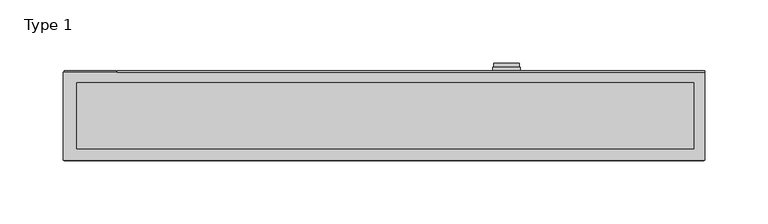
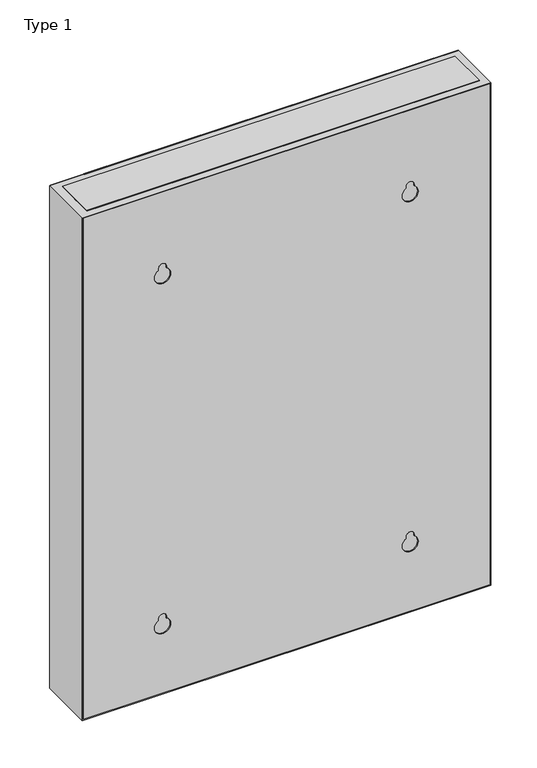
"""IFC4 building model written with IfcOpenShell, lengths in millimetres: proxy geometry, PDB-200 - 208V_OR_120V_Distribution_Panel_Wallmount_BIM_Model : Type 1."""

from ifc_helpers import new_model, si_unit, point, frame, frame_2d, origin, place, context, project, spatial, polyline, circle_curve, trimmed, segment, composite_curve, outline, extrude, source, transform, mapped, element, save


def type_1_7145ab67(model_context):
    return source(origin(), model_context, "Body", "SweptSolid", [
        extrude(outline(polyline([(1661.8105, -253.0019074), (1003.7201708, -253.0019074), (1003.7201708, 253.0019074), (1661.8105, 253.0019074), (1661.8105, -253.0019074)]), holes=[composite_curve([segment(trimmed(circle_curve(frame_2d((1562.5846885, 154.050553)), 5.0), [point((1562.5846885, 149.050553))], [point((1562.5846885, 159.050553))], True, "CARTESIAN"), True, "CONTINUOUS"), segment(polyline([(1562.5846885, 159.050553), (1560.4927236, 159.050553)]), True, "CONTINUOUS"), segment(trimmed(circle_curve(frame_2d((1551.8324696, 154.050553)), 10.0), [point((1560.4927236, 159.050553))], [point((1560.4927236, 149.050553))], True, "CARTESIAN"), True, "CONTINUOUS"), segment(polyline([(1560.4927236, 149.050553), (1562.5846885, 149.050553)]), True, "CONTINUOUS")], self_intersect=False), composite_curve([segment(trimmed(circle_curve(frame_2d((1562.5846885, -153.949447)), 5.0), [point((1562.5846885, -158.949447))], [point((1562.5846885, -148.949447))], True, "CARTESIAN"), True, "CONTINUOUS"), segment(polyline([(1562.5846885, -148.949447), (1560.4927236, -148.949447)]), True, "CONTINUOUS"), segment(trimmed(circle_curve(frame_2d((1551.8324696, -153.949447)), 10.0), [point((1560.4927236, -148.949447))], [point((1560.4927236, -158.949447))], True, "CARTESIAN"), True, "CONTINUOUS"), segment(polyline([(1560.4927236, -158.949447), (1562.5846885, -158.949447)]), True, "CONTINUOUS")], self_intersect=False), composite_curve([segment(trimmed(circle_curve(frame_2d((1102.5846885, 154.050553)), 5.0), [point((1102.5846885, 149.050553))], [point((1102.5846885, 159.050553))], True, "CARTESIAN"), True, "CONTINUOUS"), segment(polyline([(1102.5846885, 159.050553), (1100.4927236, 159.050553)]), True, "CONTINUOUS"), segment(trimmed(circle_curve(frame_2d((1091.8324696, 154.050553)), 10.0), [point((1100.4927236, 159.050553))], [point((1100.4927236, 149.050553))], True, "CARTESIAN"), True, "CONTINUOUS"), segment(polyline([(1100.4927236, 149.050553), (1102.5846885, 149.050553)]), True, "CONTINUOUS")], self_intersect=False), composite_curve([segment(trimmed(circle_curve(frame_2d((1102.5846885, -153.949447)), 5.0), [point((1102.5846885, -158.949447))], [point((1102.5846885, -148.949447))], True, "CARTESIAN"), True, "CONTINUOUS"), segment(polyline([(1102.5846885, -148.949447), (1100.4927236, -148.949447)]), True, "CONTINUOUS"), segment(trimmed(circle_curve(frame_2d((1091.8324696, -153.949447)), 10.0), [point((1100.4927236, -148.949447))], [point((1100.4927236, -158.949447))], True, "CARTESIAN"), True, "CONTINUOUS"), segment(polyline([(1100.4927236, -158.949447), (1102.5846885, -158.949447)]), True, "CONTINUOUS")], self_intersect=False)]), frame((0.0, 75.0, 0.0), z_axis=(0.0, 1.0, 0.0), x_axis=(0.0, 0.0, 1.0)), (0.0, 0.0, 1.0), 0.9625754),
        extrude(outline(polyline([(245.1030134, 136.3815412), (245.1030134, 84.1852012), (-243.0019074, 84.1852012), (-243.0019074, 136.3815412), (245.1030134, 136.3815412)])), frame((0.0, 0.0, 1662.5846885), z_axis=(0.0, 0.0, 1.0), x_axis=(1.0, 0.0, 0.0)), (0.0, 0.0, 1.0), 1.0190412),
        extrude(outline(polyline([(245.1030134, 136.3815412), (245.1030134, 84.1852012), (-243.0019074, 84.1852012), (-243.0019074, 136.3815412), (245.1030134, 136.3815412)])), frame((0.0, 0.0, 1001.2301619), z_axis=(0.0, 0.0, 1.0), x_axis=(1.0, 0.0, 0.0)), (0.0, 0.0, 1.0), 1.3545267),
        extrude(outline(polyline([(1662.5846885, -211.0108438), (1002.5846885, -211.0108438), (1002.5846885, 254.050553), (1662.5846885, 254.050553), (1662.5846885, -211.0108438)]), holes=[polyline([(1580.351105, -164.6014451), (1580.351105, 175.3985549), (1090.6943454, 175.3985549), (1090.6943454, -164.6014451), (1580.351105, -164.6014451)])]), frame((0.0, 144.9997753, 0.0), z_axis=(0.0, 1.0, 0.0), x_axis=(0.0, 0.0, 1.0)), (0.0, 0.0, 1.0), 0.9317574),
        extrude(outline(polyline([(174.8985549, 144.9997753), (-164.1014451, 144.9997753), (-164.1014451, 145.9315328), (174.8985549, 145.9315328), (174.8985549, 144.9997753)])), frame((0.0, 0.0, 1091.1943454), z_axis=(0.0, 0.0, 1.0), x_axis=(1.0, 0.0, 0.0)), (0.0, 0.0, 1.0), 488.6567596),
        extrude(outline(polyline([(1662.5846885, -253.949447), (1002.5846885, -253.949447), (1002.5846885, 254.050553), (1662.5846885, 254.050553), (1662.5846885, -253.949447)]), holes=[polyline([(1661.8105, -253.0019074), (1661.8105, 253.0019074), (1003.7201708, 253.0019074), (1003.7201708, -253.0019074), (1661.8105, -253.0019074)])]), frame((0.0, 75.0, 0.0), z_axis=(0.0, 1.0, 0.0), x_axis=(0.0, 0.0, 1.0)), (0.0, 0.0, 1.0), 69.9997753),
        extrude(outline(polyline([(-212.0019074, 144.9997753), (-253.0019074, 144.9997753), (-253.0019074, 145.9315328), (-212.0019074, 145.9315328), (-212.0019074, 144.9997753)])), frame((0.0, 0.0, 1002.5846885), z_axis=(0.0, 0.0, 1.0), x_axis=(1.0, 0.0, 0.0)), (0.0, 0.0, 1.0), 660.0),
        extrude(outline(composite_curve([segment(trimmed(circle_curve(frame_2d((1355.1281656, 96.998748)), 10.0), [point((1355.1281656, 86.998748))], [point((1355.1281656, 106.998748))], False, "CARTESIAN"), True, "CONTINUOUS"), segment(trimmed(circle_curve(frame_2d((1355.1281656, 96.998748)), 10.0), [point((1355.1281656, 106.998748))], [point((1355.1281656, 86.998748))], False, "CARTESIAN"), True, "CONTINUOUS")], self_intersect=False), holes=[polyline([(1362.2099321, 95.0693114), (1362.2099321, 98.854378), (1347.2099321, 98.854378), (1347.2099321, 95.0693114), (1362.2099321, 95.0693114)])]), frame((0.0, 148.9872487, 0.0), z_axis=(0.0, 1.0, 0.0), x_axis=(0.0, 0.0, 1.0)), (0.0, 0.0, 1.0), 3.0401587),
        extrude(outline(polyline([(107.9737314, 148.9872487), (107.9737314, 145.9315328), (85.9737314, 145.9315328), (85.9737314, 148.9872487), (107.9737314, 148.9872487)])), frame((0.0, 0.0, 1290.0770102), z_axis=(0.0, 0.0, 1.0), x_axis=(1.0, 0.0, 0.0)), (0.0, 0.0, 1.0), 84.5076783),
    ])


if __name__ == "__main__":
    model = new_model("IFC4")
    model_context = context("Model", 3, world=origin())
    ifc_project = project(units=[si_unit("LENGTHUNIT", "METRE", prefix="MILLI")], contexts=[model_context])
    site = spatial("IfcSite", under=ifc_project)
    building = spatial("IfcBuilding", under=site)
    placement = place(None, origin())
    type_1_shape = type_1_7145ab67(model_context)
    element("IfcBuildingElementProxy", 1, Name="PDB-200 - 208V_OR_120V_Distribution_Panel_Wallmount_BIM_Model : Type 1", ObjectType="PDB-200 - 208V_OR_120V_Distribution_Panel_Wallmount_BIM_Model : Type 1", at=placement, inside=building, context=model_context, shape_type="MappedRepresentation", body=[
        mapped(type_1_shape, transform((0.0, 0.0, 0.0), x_axis=(1.0, 0.0, 0.0), y_axis=(0.0, 1.0, 0.0), z_axis=(0.0, 0.0, 1.0))),
    ])
    save(model, "model.ifc")
